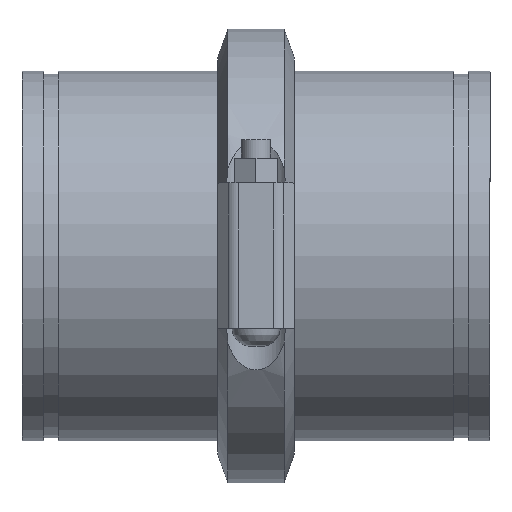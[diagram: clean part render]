
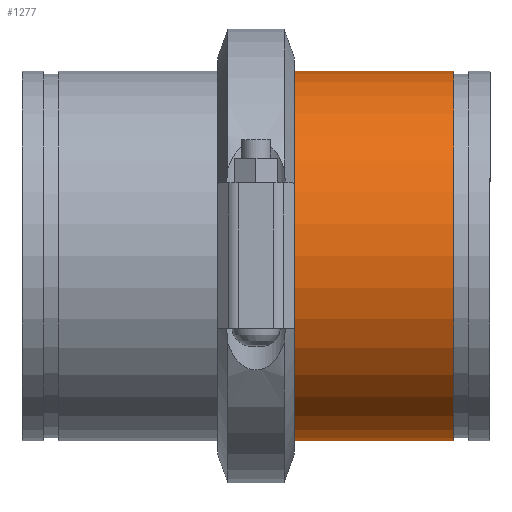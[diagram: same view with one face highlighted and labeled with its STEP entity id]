
A CAD part, top view. The second image highlights one B-rep face of the part: STEP entity #1277.
In plain terms, the highlighted cylindrical face has radius 161.925 mm (diameter 323.85 mm), a full revolution.
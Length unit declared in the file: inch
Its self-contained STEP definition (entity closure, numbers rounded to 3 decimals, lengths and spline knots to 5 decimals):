
#60=LINE('',#2003,#143);
#143=VECTOR('',#1632,6.375);
#226=CYLINDRICAL_SURFACE('',#1449,6.375);
#275=FACE_OUTER_BOUND('',#352,.T.);
#352=EDGE_LOOP('',(#837,#838,#839,#840,#841,#842));
#448=CIRCLE('',#1447,6.375);
#449=CIRCLE('',#1448,6.375);
#450=CIRCLE('',#1450,6.375);
#451=CIRCLE('',#1451,6.375);
#520=VERTEX_POINT('',#1994);
#521=VERTEX_POINT('',#1995);
#522=VERTEX_POINT('',#1999);
#523=VERTEX_POINT('',#2000);
#645=EDGE_CURVE('',#520,#521,#448,.T.);
#646=EDGE_CURVE('',#521,#520,#449,.T.);
#647=EDGE_CURVE('',#522,#523,#450,.T.);
#648=EDGE_CURVE('',#523,#522,#451,.T.);
#649=EDGE_CURVE('',#523,#521,#60,.T.);
#837=ORIENTED_EDGE('',*,*,#647,.F.);
#838=ORIENTED_EDGE('',*,*,#648,.F.);
#839=ORIENTED_EDGE('',*,*,#649,.T.);
#840=ORIENTED_EDGE('',*,*,#646,.T.);
#841=ORIENTED_EDGE('',*,*,#645,.T.);
#842=ORIENTED_EDGE('',*,*,#649,.F.);
#1277=ADVANCED_FACE('',(#275),#226,.T.);
#1447=AXIS2_PLACEMENT_3D('',#1996,#1622,#1623);
#1448=AXIS2_PLACEMENT_3D('',#1997,#1624,#1625);
#1449=AXIS2_PLACEMENT_3D('',#1998,#1626,#1627);
#1450=AXIS2_PLACEMENT_3D('',#2001,#1628,#1629);
#1451=AXIS2_PLACEMENT_3D('',#2002,#1630,#1631);
#1622=DIRECTION('center_axis',(-1.,0.,0.));
#1623=DIRECTION('ref_axis',(0.,0.,1.));
#1624=DIRECTION('center_axis',(-1.,0.,0.));
#1625=DIRECTION('ref_axis',(0.,0.,1.));
#1626=DIRECTION('center_axis',(-1.,0.,0.));
#1627=DIRECTION('ref_axis',(0.,1.,0.));
#1628=DIRECTION('center_axis',(-1.,0.,0.));
#1629=DIRECTION('ref_axis',(0.,0.,1.));
#1630=DIRECTION('center_axis',(-1.,0.,0.));
#1631=DIRECTION('ref_axis',(0.,0.,1.));
#1632=DIRECTION('',(1.,0.,0.));
#1994=CARTESIAN_POINT('',(2.75,6.375,0.));
#1995=CARTESIAN_POINT('',(2.75,-6.375,0.));
#1996=CARTESIAN_POINT('Origin',(2.75,0.,0.));
#1997=CARTESIAN_POINT('Origin',(2.75,0.,0.));
#1998=CARTESIAN_POINT('Origin',(0.,0.,
0.));
#1999=CARTESIAN_POINT('',(-2.75,6.375,0.));
#2000=CARTESIAN_POINT('',(-2.75,-6.375,0.));
#2001=CARTESIAN_POINT('Origin',(-2.75,0.,0.));
#2002=CARTESIAN_POINT('Origin',(-2.75,0.,0.));
#2003=CARTESIAN_POINT('',(0.,-6.375,0.));
